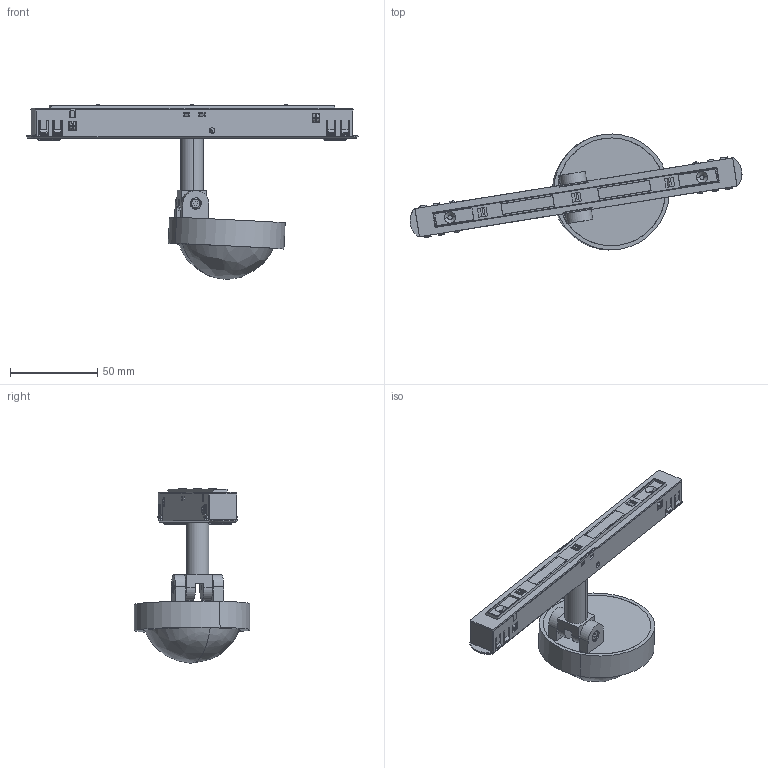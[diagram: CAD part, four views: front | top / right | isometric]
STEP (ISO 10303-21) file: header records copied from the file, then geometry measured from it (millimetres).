
FILE_DESCRIPTION (( 'STEP AP203' ), '1' );
FILE_NAME ('410230.STEP', '2025-04-02T03:06:01', ( '微软用户' ), ( '微软中国' ), 'SwSTEP 2.0', 'SolidWorks 2020', '' );
FILE_SCHEMA (( 'CONFIG_CONTROL_DESIGN' ));
Length unit declared in the file: millimetre
Products named in the file (22): MANIFOLD_SOLID_BREP_1156; 嫖埭; MANIFOLD_SOLID_BREP_1146; 10-07-WJ1; 60芧芵噩; MANIFOLD_SOLID_BREP_1147; 10-08-G1_1; 腑极3; MANIFOLD_SOLID_BREP_1148; 10-10-gk-2; 盓殤; 魂雄裝1; MANIFOLD_SOLID_BREP_1149; 410230; 殑嫖啣3; 蝶菜; MANIFOLD_SOLID_BREP_1150; 裔啣3; M3埴翐芛蹟佪; MANIFOLD_SOLID_BREP_1155; 嫖埭盓殤; MANIFOLD_SOLID_BREP_1145
Assembly tree (26 placements, depth 3):
  410230
    魂雄裝1
    蝶菜  x2
    裔啣3
    嫖埭盓殤
    嫖埭
    60芧芵噩
    腑极3
    盓殤  x2
    殑嫖啣3
    M3埴翐芛蹟佪  x4
    10-10-gk-2
      MANIFOLD_SOLID_BREP_1145
      MANIFOLD_SOLID_BREP_1146
      MANIFOLD_SOLID_BREP_1147
      MANIFOLD_SOLID_BREP_1148
      MANIFOLD_SOLID_BREP_1149
      MANIFOLD_SOLID_BREP_1150
      MANIFOLD_SOLID_BREP_1155
      MANIFOLD_SOLID_BREP_1156
      10-07-WJ1
      10-08-G1_1
Bounding box: 190.66 x 66.6 x 100.19 mm (x, y, z)
Volume: 95898.2 mm3; surface area: 74482.9 mm2
Topology: 29 solids, 29 shells, 1858 faces, 5021 edges, 3291 vertices
Faces by surface type: plane 1210, cylinder 340, bspline 203, cone 103, torus 2
Entity records: 72071 total; most frequent: CARTESIAN_POINT 26499, ORIENTED_EDGE 9734, DIRECTION 7585, EDGE_CURVE 4867, VECTOR 3229, LINE 3229, VERTEX_POINT 3196, AXIS2_PLACEMENT_3D 2178
